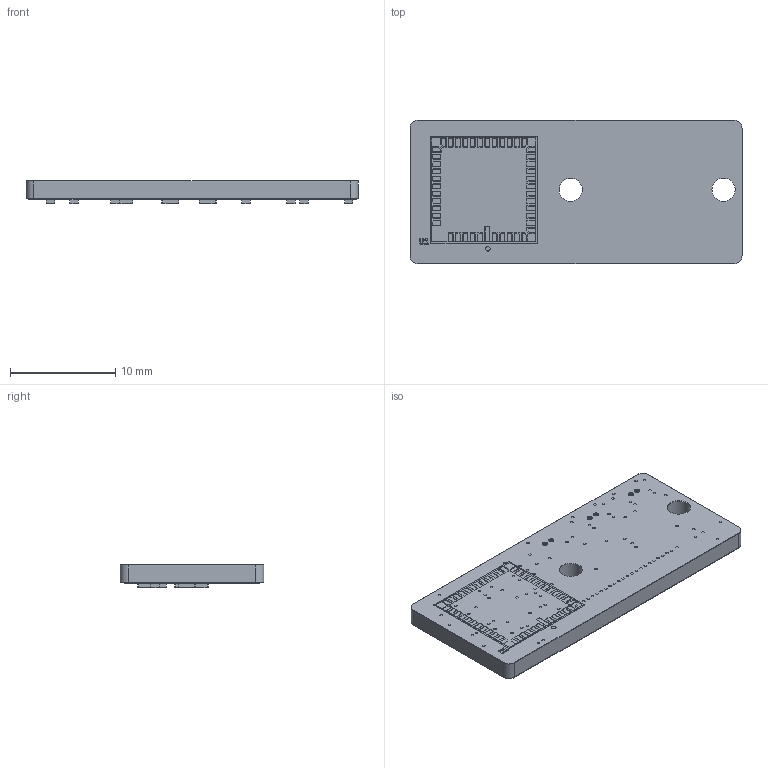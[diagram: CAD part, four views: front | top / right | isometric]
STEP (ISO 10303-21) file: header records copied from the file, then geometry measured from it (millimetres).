
FILE_DESCRIPTION(('KiCad electronic assembly'),'2;1');
FILE_NAME('star-tracker-camera-board-pcba.step','2026-05-07T20:46:38',( 'Pcbnew'),('Kicad'),'Open CASCADE STEP processor 7.9', 'KiCad to STEP converter','Unknown');
FILE_SCHEMA(('AUTOMOTIVE_DESIGN { 1 0 10303 214 1 1 1 1 }'));
Length unit declared in the file: millimetre
Products named in the file (8): star-tracker-camera-board-pcba 1; R_0603_1608Metric; star-tracker-camera-board_pad; star-tracker-camera-board_silkscreen; star-tracker-camera-board_soldermask; star-tracker-camera-board_PCB
Assembly tree (16 placements, depth 2):
  star-tracker-camera-board-pcba 1
    R_0603_1608Metric  x10
    star-tracker-camera-board_pad
    star-tracker-camera-board_silkscreen
    star-tracker-camera-board_silkscreen
    star-tracker-camera-board_soldermask
    star-tracker-camera-board_soldermask
    star-tracker-camera-board_PCB
Bounding box: 31.5 x 13.6 x 2.26 mm (x, y, z)
Volume: 687.6 mm3; surface area: 2155.4 mm2
Topology: 205 solids, 390 shells, 1929 faces, 7959 edges, 6625 vertices
Faces by surface type: plane 1451, cylinder 478
Full cylindrical faces by diameter (mm): 0.204 x24, 0.254 x111, 0.508 x12, 0.6 x5, 2.2 x2
Entity records: 80071 total; most frequent: CARTESIAN_POINT 15288, DIRECTION 12584, ORIENTED_EDGE 10697, EDGE_CURVE 7347, VERTEX_POINT 6229, LINE 5534, VECTOR 5534, AXIS2_PLACEMENT_3D 3525
